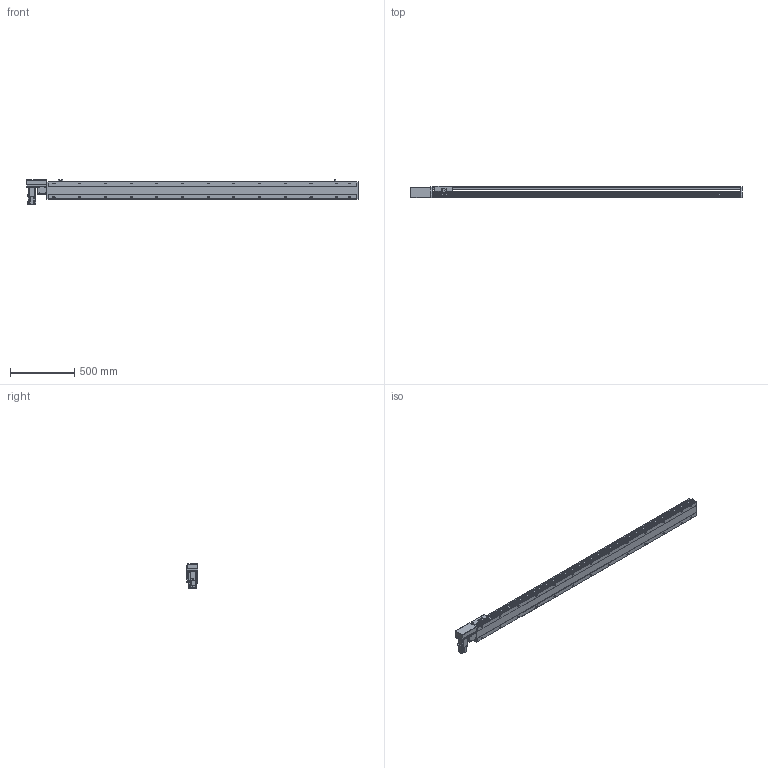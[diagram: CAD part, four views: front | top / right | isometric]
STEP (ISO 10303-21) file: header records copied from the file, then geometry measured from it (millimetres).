
FILE_DESCRIPTION( ( 'STEP AP214' ), '1' );
FILE_NAME( 'x:/temp/worker_6/temp/exporttempdir_5396_70_xOmRy/format_0/PBS140S-P40-S2150-R-T40-C1-N(0).stp', '2022-06-09T00:18:43', ( 'License CC BY-ND 4.0' ), ( 'CADENAS' ), ' ', 'PARTsolutions', ' ' );
FILE_SCHEMA( ( 'AUTOMOTIVE_DESIGN { 1 0 10303 214 1 1 1 1 }' ) );
Length unit declared in the file: millimetre
Products named in the file (7): PBS140S-P40-S2150-R-T40-C1-N(0); _PBS140S-S2150()_body; _PBS140ST-R_motors; _T40-p1; _PBS140S_sliser; _PBS140S_plant; _PBS140S_sensor
Assembly tree (8 placements, depth 2):
  PBS140S-P40-S2150-R-T40-C1-N(0)
    _PBS140S-S2150()_body
    _PBS140ST-R_motors
    _T40-p1
    _PBS140S_sliser
    _PBS140S_plant
    _PBS140S_sensor  x3
Bounding box: 2583 x 93 x 189.7 mm (x, y, z)
Volume: 12275607 mm3; surface area: 2076292.2 mm2
Topology: 8 solids, 8 shells, 1179 faces, 3111 edges, 2035 vertices
Faces by surface type: plane 732, cylinder 385, cone 52, sphere 8, torus 2
Full cylindrical faces by diameter (mm): 3.242 x4, 4 x2, 4.134 x4, 4.4 x8, 4.5 x2, 4.8 x4, 4.917 x34, 5.5 x7, 6 x2, 7 x28, 7.5 x8, 8 x12, 8.5 x4, 10.5 x26, 14 x1, 30 x2, 50 x2
Entity records: 43546 total; most frequent: CARTESIAN_POINT 7246, DIRECTION 5698, ORIENTED_EDGE 5362, EDGE_CURVE 2681, AXIS2_PLACEMENT_3D 2009, VERTEX_POINT 1873, LINE 1680, VECTOR 1680
